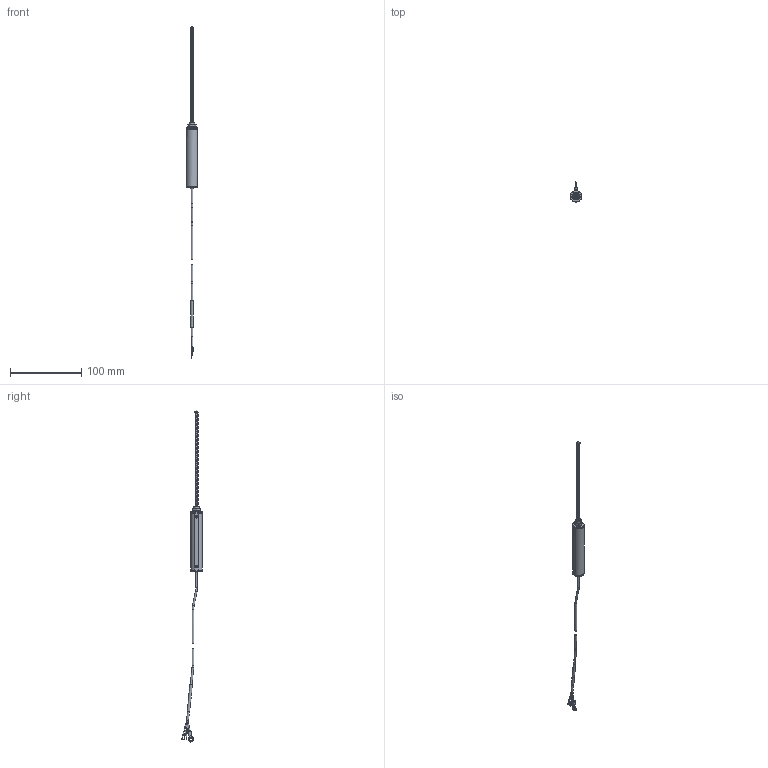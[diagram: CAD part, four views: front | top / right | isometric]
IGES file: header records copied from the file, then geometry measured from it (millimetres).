
Global section: file name: LPPS-MSL-075; native system: Autodesk Inventor 2020; preprocessor: unknown; author: J. Nielson; date: 20190829.152642; units: inch
Bounding box: 15.1 x 28.77 x 466.8 mm (x, y, z)
Volume: 7818.6 mm3; surface area: 15608.6 mm2
Topology: 24 solids, 24 shells, 339 faces, 855 edges, 577 vertices
Faces by surface type: bspline 339
